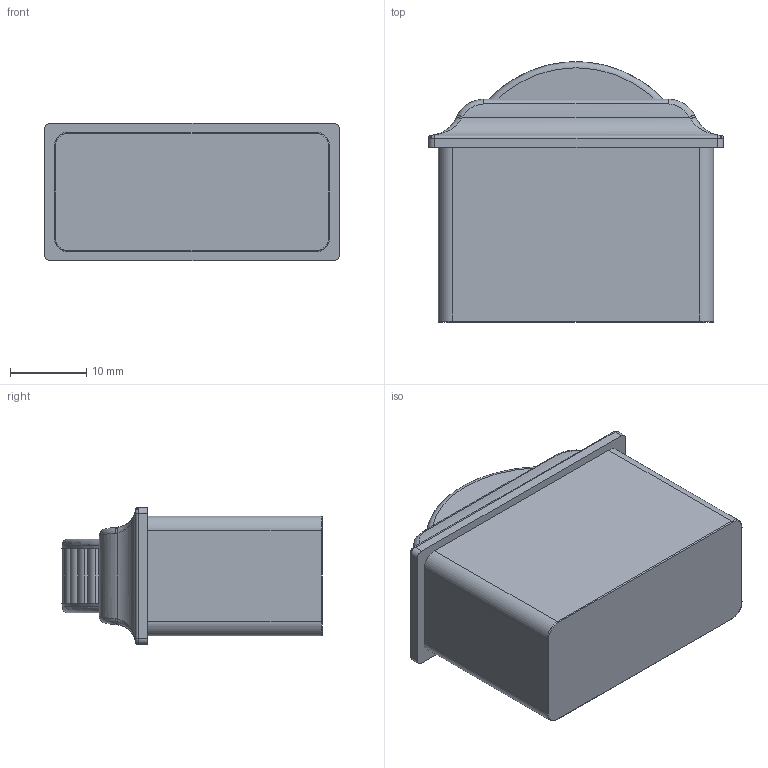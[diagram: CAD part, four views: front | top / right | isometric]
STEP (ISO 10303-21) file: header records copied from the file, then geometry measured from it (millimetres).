
FILE_DESCRIPTION (( 'STEP AP203' ), '1' );
FILE_NAME ('HTW-_Red (no tab).STEP', '2011-01-13T21:25:05', ( 'Employee' ), ( 'CH Products' ), 'SwSTEP 2.0', 'SolidWorks 2010', '' );
FILE_SCHEMA (( 'CONFIG_CONTROL_DESIGN' ));
Length unit declared in the file: inch
Products named in the file (1): HTW-_Red (no tab)
Bounding box: 38.76 x 34.21 x 18.03 mm (x, y, z)
Surface area: 4745.3 mm2 (no closed solid volume)
Topology: 0 solids, 1 shells, 151 faces, 406 edges, 252 vertices
Faces by surface type: cylinder 72, plane 49, bspline 24, torus 6
Entity records: 6447 total; most frequent: CARTESIAN_POINT 2630, DIRECTION 812, ORIENTED_EDGE 768, EDGE_CURVE 406, AXIS2_PLACEMENT_3D 330, VERTEX_POINT 252, CIRCLE 202, EDGE_LOOP 153
